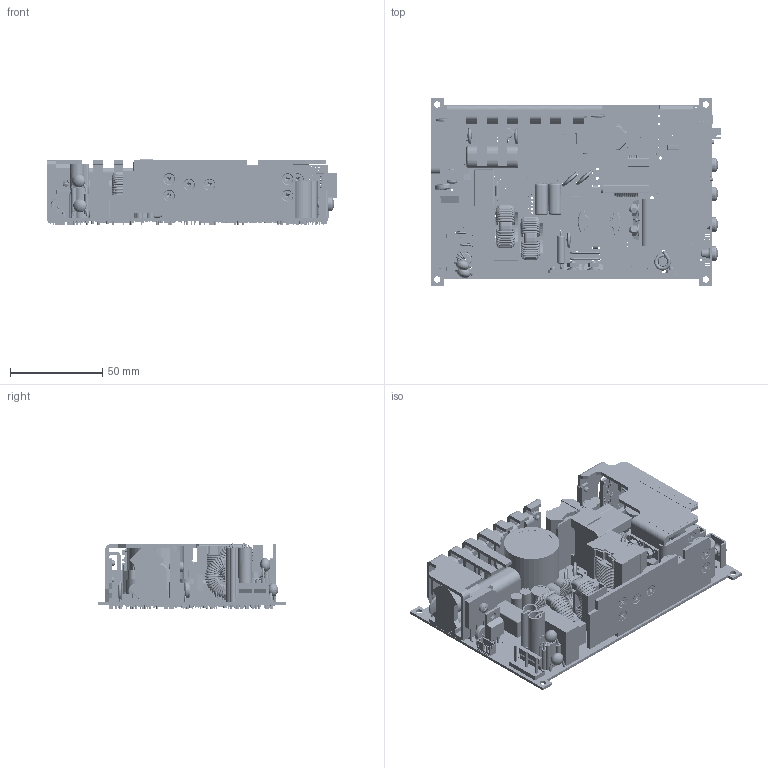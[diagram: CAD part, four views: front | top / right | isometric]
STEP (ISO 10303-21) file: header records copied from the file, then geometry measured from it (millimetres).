
FILE_DESCRIPTION (( 'STEP AP214' ), '1' );
FILE_NAME ('EMH350PDXX STEP.STEP', '2014-01-17T09:03:20', ( 'Martin' ), ( '' ), 'SwSTEP 2.0', 'SolidWorks 2014', '' );
FILE_SCHEMA (( 'AUTOMOTIVE_DESIGN' ));
Length unit declared in the file: millimetre
Products named in the file (120): Part3^EMH INPUT CHOKE; NUT-HEX_M3.0; Bridge_rect_vt_inlineGBU8K; EMH Dual Main LX Assy; EMH350PDXX STEP; Pin-1.0; 10009192 CAP CER DISC; 10013720  Input 1Choke Base-CCB200; Aux_Drv_Cur_TX Assy; 3 WATT .2 PITCH VERT; PQ2625_WINDING; RM7_CORE; 10010320 FUSE PTC RESET 1.35A 16V; Toroid Wire 17AWG; Standby TX Insulator; Cap 6.5x12mm; PQ2625 CORE; Aux_Drv_Cur_TX; RELAY 12VDC SPST-NO 30V 6A (10013553); TOROID 20 x 10 x 8mm; Pin 0.8; TYCO 640445-05 INPUT CONNECTOR; EMH Dual LX Base; TO220_3_lead_uncut_1; HAZARD LABEL; SCREW-PFH(90)_M3.0x4; EMH INPUT FILTER; THERM_BLKSLV; RM10 CORE; .25 WATT .4 PITCH; Screw M4 Panhead Steel_M4x06 Panhead screw; Wire 0.9mm -2; 2 Watt Resistor (20mm Pitch); EMH350 PFC CHOKE BASE+PINS; CAP 10mm DIA x 12.5mm HIGH x 5mm PITCH; THERMISTOR STRAIGHT LEGS_STRAIGHT LEGS; Wire 0.9mm; WASHER-M3-PLAIN; PIN 0.5mm SQ_10mm LONG; NEW EMH OUTPUT CONNECTOR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
Assembly tree (275 placements, depth 3):
  EMH350PDXX STEP
    Busbar
    Tag
    Tag
    Heatsink-OP
    Heatsink-Input (Flat)
    Heatsink-Output (Flat)
    Tag
    Tag
    Tag
    Tag
    Fet_Insulator
    NEW EMH OUTPUT CONNECTOR  x4
    Screw M4 Panhead Steel_M4x06 Panhead screw  x4
    SCREW-PFH(90)_M3.0x4  x12
    EMH INPUT CHOKE
      TOROID 20 x 10 x 8mm
      Toroid Wire 17AWG  x39
      10013720  Input 1Choke Base-CCB200
      Part3^EMH INPUT CHOKE
      Wire 0.9mm
      Wire 0.9mm
      Wire 0.9mm
      Wire 0.9mm
    CAP L=26mm W=10mm Height=19.5mm PITCH=22.5mm
    Fuse&Choke Case Mk2
    Littelfuse 5mm x 20mm  x2
    EMH INPUT FILTER
      TOROID 7.6mmDia x 3.2mm hole x 4.8mm high  x2
      Torroid Wire 0.9mm  x3
      Wire 0.9mm
      Wire 0.9mm -2
    TYCO 640445-05 INPUT CONNECTOR
    Cap 6.5x12mm  x2
    3 WATT .2 PITCH VERT  x2
    Bridge_rect_vt_inlineGBU8K
    SCREW-PPH_M3x6mm_6lg
    CAP L=28mm W=12mm Height=26mm Pitch=22.5 
    Cap-Splitter
    Cap-Splitter
    CAP L=12.5mm W=5mm Height=12mm PITCH=10mm
    CAP CER DISC 5.08 CTRS X 8.5 DIA BODY   x4
    Cap_disk_450x100_ls300_7pitch  x3
    EMH350 PFC CHOKE BASE+PINS
      PFC_Base
      PIN 0.5mm SQ_10mm LONG  x3
      PIN 0.5mm SQ_10mm LONG
      PIN 0.5mm SQ_10mm LONG
    RM10 CORE  x2
    TO220_3_lead_uncut_1  x13
    Aux_Drv_Cur_TX Assy
      Aux_Drv_Cur_TX
      RM7_CORE  x2
      Pin-1.0
      Pin-1.0
      Pin 0.8
      Pin 0.8
      Pin 0.8
      Pin 0.8
      Pin 0.8
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Bounding box: 157.32 x 101.6 x 35.6 mm (x, y, z)
Volume: 181399.4 mm3; surface area: 181096.5 mm2
Topology: 567 solids, 567 shells, 9449 faces, 22231 edges, 13932 vertices
Faces by surface type: plane 5274, cylinder 2930, torus 943, cone 226, bspline 52, sphere 24
Entity records: 224131 total; most frequent: CARTESIAN_POINT 35395, DIRECTION 32666, ORIENTED_EDGE 30578, EDGE_CURVE 15289, AXIS2_PLACEMENT_3D 10987, LINE 10692, VECTOR 10692, VERTEX_POINT 9868
